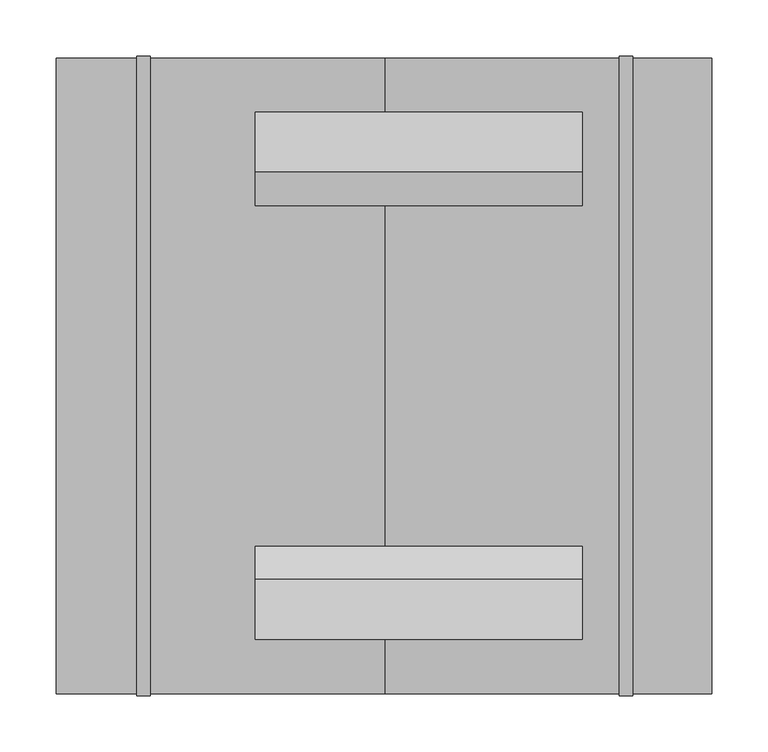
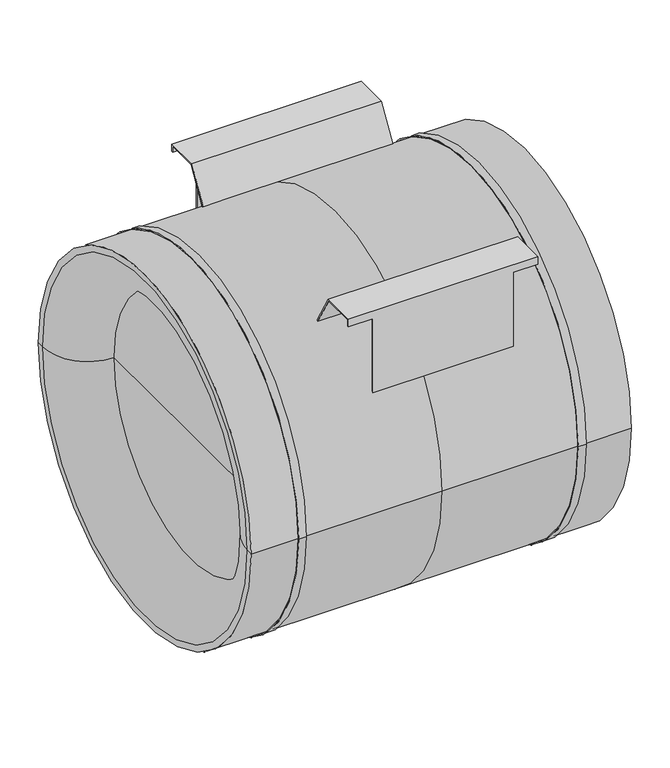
"""IFC4 building model written with IfcOpenShell, lengths in millimetres: unitary equipment geometry, VE-Wentylator-ParaForma-Harmann-JETTEC_EC-Nawiewny : 560/13600EC."""

from ifc_helpers import new_model, si_unit, point, frame, frame_2d, origin, place, context, project, spatial, polyline, circle_curve, ellipse_curve, trimmed, segment, composite_curve, outline, extrude, source, transform, mapped, element, save
from ifc_brep_helpers import plane_surface, cylinder_surface, revolved_surface, advanced_brep


def unitary_equipment_e1b1fb89(model_context):
    return source(origin(), model_context, "Body", "SolidModel", [
        extrude(outline(composite_curve([segment(polyline([(-45.5, -47.7), (-45.5, 47.7)]), True, "CONTINUOUS"), segment(trimmed(circle_curve(frame_2d((-40.5, 47.7)), 5.0), [point((-45.5, 47.7))], [point((-40.5, 52.7))], False, "CARTESIAN"), True, "CONTINUOUS"), segment(polyline([(-40.5, 52.7), (40.5, 52.7)]), True, "CONTINUOUS"), segment(trimmed(circle_curve(frame_2d((40.5, 47.7)), 5.0), [point((40.5, 52.7))], [point((45.5, 47.7))], False, "CARTESIAN"), True, "CONTINUOUS"), segment(polyline([(45.5, 47.7), (45.5, -47.7)]), True, "CONTINUOUS"), segment(trimmed(circle_curve(frame_2d((40.5, -47.7)), 5.0), [point((45.5, -47.7))], [point((40.5, -52.7))], False, "CARTESIAN"), True, "CONTINUOUS"), segment(polyline([(40.5, -52.7), (-40.5, -52.7)]), True, "CONTINUOUS"), segment(trimmed(circle_curve(frame_2d((-40.5, -47.7)), 5.0), [point((-40.5, -52.7))], [point((-45.5, -47.7))], False, "CARTESIAN"), True, "CONTINUOUS")], self_intersect=False)), frame((0.0, -55.0, 0.0), z_axis=(0.0, 1.0, 0.0), x_axis=(0.0, 0.0, 1.0)), (0.0, 0.0, 1.0), 45.0),
        advanced_brep(
        [(175.0, 234.0, 277.0), (175.0, 234.0, 289.0), (175.0, 180.8, 289.0), (175.0, 151.1693096, 238.0584799), (175.0, 152.8553733, 236.9793975), (175.0, 181.950402, 287.0), (175.0, 232.0, 287.0), (175.0, 232.0, 277.0), (137.5, 232.0, 277.0), (137.5, 234.0, 277.0), (-115.0, 232.0, 287.0), (-115.0, 232.0, 277.0), (-77.5, 232.0, 277.0), (-77.5, 232.0, 160.3121954), (137.5, 232.0, 160.3121954), (-115.0, 181.950402, 287.0), (137.5, 152.8553733, 236.9793975), (-77.5, 152.8553733, 236.9793975), (-115.0, 152.8553733, 236.9793975), (-115.0, 180.8, 289.0), (-115.0, 151.1693096, 238.0584799), (-77.5, 151.1693096, 238.0584799), (137.5, 151.1693096, 238.0584799), (-115.0, 234.0, 289.0), (137.5, 234.0, 157.3785246), (-77.5, 234.0, 157.3785246), (-77.5, 234.0, 277.0), (-115.0, 234.0, 277.0)],
        [
            (0, 1),
            (1, 2),
            (2, 3),
            (3, 4, circle_curve(frame((175.0, 0.0, 0.0), z_axis=(-1.0, 0.0, 0.0), x_axis=(0.0, 1.0, 0.0)), 282.0)),
            (4, 5),
            (5, 6),
            (6, 7),
            (7, 0),
            (7, 8),
            (8, 9),
            (9, 0),
            (6, 10),
            (10, 11),
            (11, 12),
            (12, 13),
            (13, 14),
            (14, 8),
            (5, 15),
            (15, 10),
            (4, 16),
            (16, 17),
            (17, 18),
            (18, 15),
            (19, 20),
            (20, 21),
            (21, 22),
            (22, 3),
            (2, 19),
            (1, 23),
            (23, 19),
            (9, 24),
            (24, 25),
            (25, 26),
            (26, 27),
            (27, 23),
            (20, 18, circle_curve(frame((-115.0, 0.0, 0.0), z_axis=(-1.0, 0.0, 0.0), x_axis=(0.0, 1.0, 0.0)), 282.0)),
            (17, 21, circle_curve(frame((-77.5, 0.0, 0.0), z_axis=(1.0, 0.0, 0.0), x_axis=(0.0, 1.0, 0.0)), 282.0)),
            (22, 16, circle_curve(frame((137.5, 0.0, 0.0), z_axis=(-1.0, 0.0, 0.0), x_axis=(0.0, 1.0, 0.0)), 282.0)),
            (25, 13, circle_curve(frame((-77.5, 0.0, 0.0), z_axis=(1.0, 0.0, 0.0), x_axis=(0.0, 1.0, 0.0)), 282.0)),
            (12, 26),
            (14, 24, circle_curve(frame((137.5, 0.0, 0.0), z_axis=(-1.0, 0.0, 0.0), x_axis=(0.0, 1.0, 0.0)), 282.0)),
            (27, 11),
        ],
        [
            plane_surface(frame((175.0, 0.0, 0.0), z_axis=(1.0, 0.0, 0.0), x_axis=(0.0, 0.0, 1.0))),
            plane_surface(frame((137.5, 234.0, 277.0), z_axis=(0.0, 0.0, -1.0), x_axis=(1.0, 0.0, 0.0))),
            plane_surface(frame((137.5, 232.0, 277.0), z_axis=(0.0, -1.0, 0.0), x_axis=(1.0, 0.0, 0.0))),
            plane_surface(frame((137.5, 232.0, 287.0), z_axis=(0.0, 0.0, -1.0), x_axis=(1.0, 0.0, 0.0))),
            plane_surface(frame((137.5, 181.950402, 287.0), z_axis=(0.0, 0.8644074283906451, -0.5027920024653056), x_axis=(1.0, 0.0, 0.0))),
            plane_surface(frame((137.5, 12.7, 0.0), z_axis=(0.0, -0.864407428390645, 0.5027920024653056), x_axis=(1.0, 0.0, 0.0))),
            plane_surface(frame((137.5, 180.8, 289.0), z_axis=(0.0, 0.0, 1.0), x_axis=(1.0, 0.0, 0.0))),
            plane_surface(frame((137.5, 234.0, 289.0), z_axis=(0.0, 1.0, 0.0), x_axis=(1.0, 0.0, 0.0))),
            revolved_surface(polyline([(-115.0, 282.0, 0.0), (-77.5, 282.0, 0.0)]), (-115.0, 0.0, 0.0), (-1.0, 0.0, 0.0)),
            revolved_surface(polyline([(137.5, 282.0, 0.0), (175.0, 282.0, 0.0)]), (137.5, 0.0, 0.0), (-1.0, 0.0, 0.0)),
            plane_surface(frame((-77.5, 0.0, 0.0), z_axis=(-1.0, 0.0, 0.0), x_axis=(0.0, 0.0, 1.0))),
            plane_surface(frame((137.5, 0.0, 0.0), z_axis=(1.0, 0.0, 0.0), x_axis=(0.0, 0.0, 1.0))),
            revolved_surface(polyline([(-77.5, 282.0, 0.0), (137.5, 282.0, 0.0)]), (-77.5, 0.0, 0.0), (-1.0, 0.0, 0.0)),
            plane_surface(frame((-115.0, 0.0, 0.0), z_axis=(-1.0, 0.0, 0.0), x_axis=(0.0, 0.0, 1.0))),
            plane_surface(frame((-115.0, 234.0, 277.0), z_axis=(0.0, 0.0, -1.0), x_axis=(1.0, 0.0, 0.0))),
        ],
        [
            (0, [[1, 2, 3, 4, 5, 6, 7, 8]]),
            (1, [[-8, 9, 10, 11]]),
            (2, [[-7, 12, 13, 14, 15, 16, 17, -9]]),
            (3, [[-12, -6, 18, 19]]),
            (4, [[-18, -5, 20, 21, 22, 23]]),
            (5, [[24, 25, 26, 27, -3, 28]]),
            (6, [[-28, -2, 29, 30]]),
            (7, [[-29, -1, -11, 31, 32, 33, 34, 35]]),
            (8, [[36, -22, 37, -25]]),
            (9, [[-4, -27, 38, -20]]),
            (10, [[39, -15, 40, -33]]),
            (11, [[41, -31, -10, -17]]),
            (12, [[-21, -38, -26, -37]]),
            (12, [[-39, -32, -41, -16]]),
            (13, [[42, -13, -19, -23, -36, -24, -30, -35]]),
            (14, [[-42, -34, -40, -14]]),
        ],
    ),
        advanced_brep(
        [(175.0, -180.8, 289.0), (175.0, -234.0, 289.0), (175.0, -234.0, 277.0), (175.0, -232.0, 277.0), (175.0, -232.0, 287.0), (175.0, -181.950402, 287.0), (175.0, -152.8553733, 236.9793975), (175.0, -151.1693096, 238.0584799), (-115.0, -181.950402, 287.0), (-115.0, -152.8553733, 236.9793975), (-77.5, -152.8553733, 236.9793975), (137.5, -152.8553733, 236.9793975), (-115.0, -232.0, 287.0), (137.5, -232.0, 277.0), (137.5, -232.0, 160.3121954), (-77.5, -232.0, 160.3121954), (-77.5, -232.0, 277.0), (-115.0, -232.0, 277.0), (137.5, -234.0, 277.0), (-115.0, -234.0, 289.0), (-115.0, -234.0, 277.0), (-77.5, -234.0, 277.0), (-77.5, -234.0, 157.3785246), (137.5, -234.0, 157.3785246), (-115.0, -180.8, 289.0), (137.5, -151.1693096, 238.0584799), (-77.5, -151.1693096, 238.0584799), (-115.0, -151.1693096, 238.0584799)],
        [
            (0, 1),
            (1, 2),
            (2, 3),
            (3, 4),
            (4, 5),
            (5, 6),
            (6, 7, circle_curve(frame((175.0, 0.0, 0.0), z_axis=(-1.0, 0.0, 0.0), x_axis=(0.0, 1.0, 0.0)), 282.0)),
            (7, 0),
            (8, 9),
            (9, 10),
            (10, 11),
            (11, 6),
            (5, 8),
            (4, 12),
            (12, 8),
            (3, 13),
            (13, 14),
            (14, 15),
            (15, 16),
            (16, 17),
            (17, 12),
            (2, 18),
            (18, 13),
            (1, 19),
            (19, 20),
            (20, 21),
            (21, 22),
            (22, 23),
            (23, 18),
            (0, 24),
            (24, 19),
            (7, 25),
            (25, 26),
            (26, 27),
            (27, 24),
            (9, 27, circle_curve(frame((-115.0, 0.0, 0.0), z_axis=(-1.0, 0.0, 0.0), x_axis=(0.0, 1.0, 0.0)), 282.0)),
            (26, 10, circle_curve(frame((-77.5, 0.0, 0.0), z_axis=(1.0, 0.0, 0.0), x_axis=(0.0, 1.0, 0.0)), 282.0)),
            (11, 25, circle_curve(frame((137.5, 0.0, 0.0), z_axis=(-1.0, 0.0, 0.0), x_axis=(0.0, 1.0, 0.0)), 282.0)),
            (15, 22, circle_curve(frame((-77.5, 0.0, 0.0), z_axis=(1.0, 0.0, 0.0), x_axis=(0.0, 1.0, 0.0)), 282.0)),
            (21, 16),
            (23, 14, circle_curve(frame((137.5, 0.0, 0.0), z_axis=(-1.0, 0.0, 0.0), x_axis=(0.0, 1.0, 0.0)), 282.0)),
            (17, 20),
        ],
        [
            plane_surface(frame((175.0, 0.0, 0.0), z_axis=(1.0, 0.0, 0.0), x_axis=(0.0, 0.0, 1.0))),
            plane_surface(frame((137.5, -13.850402, -2.0), z_axis=(0.0, -0.8644074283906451, -0.5027920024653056), x_axis=(1.0, 0.0, 0.0))),
            plane_surface(frame((137.5, -181.950402, 287.0), z_axis=(0.0, 0.0, -1.0), x_axis=(1.0, 0.0, 0.0))),
            plane_surface(frame((137.5, -232.0, 287.0), z_axis=(0.0, 1.0, 0.0), x_axis=(1.0, 0.0, 0.0))),
            plane_surface(frame((137.5, -232.0, 277.0), z_axis=(0.0, 0.0, -1.0), x_axis=(1.0, 0.0, 0.0))),
            plane_surface(frame((137.5, -234.0, 277.0), z_axis=(0.0, -1.0, 0.0), x_axis=(1.0, 0.0, 0.0))),
            plane_surface(frame((137.5, -234.0, 289.0), z_axis=(0.0, 0.0, 1.0), x_axis=(1.0, 0.0, 0.0))),
            plane_surface(frame((137.5, -180.8, 289.0), z_axis=(0.0, 0.864407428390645, 0.5027920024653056), x_axis=(1.0, 0.0, 0.0))),
            revolved_surface(polyline([(-115.0, 282.0, 0.0), (-77.5, 282.0, 0.0)]), (-115.0, 0.0, 0.0), (-1.0, 0.0, 0.0)),
            revolved_surface(polyline([(137.5, 282.0, 0.0), (175.0, 282.0, 0.0)]), (137.5, 0.0, 0.0), (-1.0, 0.0, 0.0)),
            plane_surface(frame((-77.5, 0.0, 0.0), z_axis=(-1.0, 0.0, 0.0), x_axis=(0.0, 0.0, 1.0))),
            plane_surface(frame((137.5, 0.0, 0.0), z_axis=(1.0, 0.0, 0.0), x_axis=(0.0, 0.0, 1.0))),
            revolved_surface(polyline([(-77.5, 282.0, 0.0), (137.5, 282.0, 0.0)]), (-77.5, 0.0, 0.0), (-1.0, 0.0, 0.0)),
            plane_surface(frame((-115.0, 0.0, 0.0), z_axis=(-1.0, 0.0, 0.0), x_axis=(0.0, 0.0, 1.0))),
            plane_surface(frame((-115.0, -232.0, 277.0), z_axis=(0.0, 0.0, -1.0), x_axis=(1.0, 0.0, 0.0))),
        ],
        [
            (0, [[1, 2, 3, 4, 5, 6, 7, 8]]),
            (1, [[9, 10, 11, 12, -6, 13]]),
            (2, [[-13, -5, 14, 15]]),
            (3, [[-14, -4, 16, 17, 18, 19, 20, 21]]),
            (4, [[-3, 22, 23, -16]]),
            (5, [[-2, 24, 25, 26, 27, 28, 29, -22]]),
            (6, [[-24, -1, 30, 31]]),
            (7, [[-30, -8, 32, 33, 34, 35]]),
            (8, [[36, -34, 37, -10]]),
            (9, [[-7, -12, 38, -32]]),
            (10, [[39, -27, 40, -19]]),
            (11, [[41, -17, -23, -29]]),
            (12, [[-11, -37, -33, -38]]),
            (12, [[-39, -18, -41, -28]]),
            (13, [[-15, -21, 42, -25, -31, -35, -36, -9]]),
            (14, [[-42, -20, -40, -26]]),
        ],
    ),
        advanced_brep(
        [(-208.0, 282.0, 0.0), (0.0, 282.0, 0.0), (0.0, -282.0, 0.0), (-208.0, -282.0, 0.0), (-291.5, -282.0, 0.0), (-291.5, 282.0, 0.0), (-220.0, 282.0, 0.0), (-220.0, -282.0, 0.0), (-291.5, -272.0, 0.0), (-291.5, 272.0, 0.0), (-222.0, -202.5, 0.0), (-222.0, 202.5, 0.0), (-222.0, 0.0, 0.0), (290.0, -282.0, 0.0), (290.0, 282.0, 0.0), (290.0, 0.0, 0.0), (220.0, -282.0, 0.0), (220.0, 282.0, 0.0), (208.0, 282.0, 0.0), (208.0, -282.0, 0.0), (-208.0, -283.8, 0.0), (-208.0, 283.8, 0.0), (-220.0, -283.8, 0.0), (-220.0, 283.8, 0.0), (220.0, -283.8, 0.0), (220.0, 283.8, 0.0), (208.0, -283.8, 0.0), (208.0, 283.8, 0.0)],
        [
            (0, 1),
            (1, 2, circle_curve(frame((0.0, 0.0, 0.0), z_axis=(-1.0, 0.0, 0.0), x_axis=(0.0, 1.0, 0.0)), 282.0)),
            (2, 3),
            (3, 0, circle_curve(frame((-208.0, 0.0, 0.0), z_axis=(1.0, 0.0, 0.0), x_axis=(0.0, 1.0, 0.0)), 282.0)),
            (0, 3, circle_curve(frame((-208.0, 0.0, 0.0), z_axis=(1.0, 0.0, 0.0), x_axis=(0.0, 1.0, 0.0)), 282.0)),
            (2, 1, circle_curve(frame((0.0, 0.0, 0.0), z_axis=(-1.0, 0.0, 0.0), x_axis=(0.0, 1.0, 0.0)), 282.0)),
            (4, 5, circle_curve(frame((-291.5, 0.0, 0.0), z_axis=(1.0, 0.0, 0.0), x_axis=(0.0, 1.0, 0.0)), 282.0)),
            (5, 6),
            (6, 7, circle_curve(frame((-220.0, 0.0, 0.0), z_axis=(-1.0, 0.0, 0.0), x_axis=(0.0, 1.0, 0.0)), 282.0)),
            (7, 4),
            (5, 4, circle_curve(frame((-291.5, 0.0, 0.0), z_axis=(1.0, 0.0, 0.0), x_axis=(0.0, 1.0, 0.0)), 282.0)),
            (7, 6, circle_curve(frame((-220.0, 0.0, 0.0), z_axis=(-1.0, 0.0, 0.0), x_axis=(0.0, 1.0, 0.0)), 282.0)),
            (4, 8),
            (8, 9, circle_curve(frame((-291.5, 0.0, 0.0), z_axis=(1.0, 0.0, 0.0), x_axis=(0.0, 1.0, 0.0)), 272.0)),
            (9, 5),
            (9, 8, circle_curve(frame((-291.5, 0.0, 0.0), z_axis=(1.0, 0.0, 0.0), x_axis=(0.0, 1.0, 0.0)), 272.0)),
            (8, 10, circle_curve(frame((-222.0, -272.0, 0.0), z_axis=(0.0, 0.0, -1.0), x_axis=(1.0, 0.0, 0.0)), 69.5)),
            (10, 11, circle_curve(frame((-222.0, 0.0, 0.0), z_axis=(1.0, 0.0, 0.0), x_axis=(0.0, 1.0, 0.0)), 202.5)),
            (11, 9, circle_curve(frame((-222.0, 272.0, 0.0), z_axis=(0.0, 0.0, -1.0), x_axis=(1.0, 0.0, 0.0)), 69.5)),
            (11, 10, circle_curve(frame((-222.0, 0.0, 0.0), z_axis=(1.0, 0.0, 0.0), x_axis=(0.0, 1.0, 0.0)), 202.5)),
            (10, 12),
            (12, 11),
            (13, 14, circle_curve(frame((290.0, 0.0, 0.0), z_axis=(1.0, 0.0, 0.0), x_axis=(0.0, 1.0, 0.0)), 282.0)),
            (14, 15),
            (15, 13),
            (14, 13, circle_curve(frame((290.0, 0.0, 0.0), z_axis=(1.0, 0.0, 0.0), x_axis=(0.0, 1.0, 0.0)), 282.0)),
            (13, 16),
            (16, 17, circle_curve(frame((220.0, 0.0, 0.0), z_axis=(1.0, 0.0, 0.0), x_axis=(0.0, 1.0, 0.0)), 282.0)),
            (17, 14),
            (17, 16, circle_curve(frame((220.0, 0.0, 0.0), z_axis=(1.0, 0.0, 0.0), x_axis=(0.0, 1.0, 0.0)), 282.0)),
            (1, 18),
            (18, 19, circle_curve(frame((208.0, 0.0, 0.0), z_axis=(-1.0, 0.0, 0.0), x_axis=(0.0, 1.0, 0.0)), 282.0)),
            (19, 2),
            (19, 18, circle_curve(frame((208.0, 0.0, 0.0), z_axis=(-1.0, 0.0, 0.0), x_axis=(0.0, 1.0, 0.0)), 282.0)),
            (20, 21, circle_curve(frame((-208.0, 0.0, 0.0), z_axis=(1.0, 0.0, 0.0), x_axis=(0.0, 1.0, 0.0)), 283.8)),
            (21, 0),
            (3, 20),
            (21, 20, circle_curve(frame((-208.0, 0.0, 0.0), z_axis=(1.0, 0.0, 0.0), x_axis=(0.0, 1.0, 0.0)), 283.8)),
            (20, 22),
            (22, 23, circle_curve(frame((-220.0, 0.0, 0.0), z_axis=(1.0, 0.0, 0.0), x_axis=(0.0, 1.0, 0.0)), 283.8)),
            (23, 21),
            (23, 22, circle_curve(frame((-220.0, 0.0, 0.0), z_axis=(1.0, 0.0, 0.0), x_axis=(0.0, 1.0, 0.0)), 283.8)),
            (22, 7),
            (6, 23),
            (24, 25, circle_curve(frame((220.0, 0.0, 0.0), z_axis=(1.0, 0.0, 0.0), x_axis=(0.0, 1.0, 0.0)), 283.8)),
            (25, 17),
            (16, 24),
            (25, 24, circle_curve(frame((220.0, 0.0, 0.0), z_axis=(1.0, 0.0, 0.0), x_axis=(0.0, 1.0, 0.0)), 283.8)),
            (24, 26),
            (26, 27, circle_curve(frame((208.0, 0.0, 0.0), z_axis=(1.0, 0.0, 0.0), x_axis=(0.0, 1.0, 0.0)), 283.8)),
            (27, 25),
            (27, 26, circle_curve(frame((208.0, 0.0, 0.0), z_axis=(1.0, 0.0, 0.0), x_axis=(0.0, 1.0, 0.0)), 283.8)),
            (26, 19),
            (18, 27),
        ],
        [
            cylinder_surface(frame((-222.0, 0.0, 0.0), z_axis=(-1.0, 0.0, 0.0), x_axis=(0.0, 1.0, 0.0)), 282.0),
            plane_surface(frame((-291.5, 0.0, 0.0), z_axis=(-1.0, 0.0, 0.0), x_axis=(0.0, 1.0, 0.0))),
            revolved_surface(trimmed(ellipse_curve(frame((-222.0, 272.0, 0.0), z_axis=(0.0, 0.0, 1.0), x_axis=(1.0, 0.0, 0.0)), 69.5, 69.5), [point((-291.5, 272.0, 0.0))], [point((-222.0, 202.5, 0.0))], True, "CARTESIAN"), (-222.0, 0.0, 0.0), (-1.0, 0.0, 0.0)),
            plane_surface(frame((-222.0, 0.0, 0.0), z_axis=(-1.0, 0.0, 0.0), x_axis=(0.0, 1.0, 0.0))),
            plane_surface(frame((290.0, 0.0, 0.0), z_axis=(1.0, 0.0, 0.0), x_axis=(0.0, 1.0, 0.0))),
            cylinder_surface(frame((0.0, 0.0, 0.0), z_axis=(-1.0, 0.0, 0.0), x_axis=(0.0, 1.0, 0.0)), 282.0),
            plane_surface(frame((-208.0, 0.0, 0.0), z_axis=(1.0, 0.0, 0.0), x_axis=(0.0, 1.0, 0.0))),
            cylinder_surface(frame((-220.0, 0.0, 0.0), z_axis=(-1.0, 0.0, 0.0), x_axis=(0.0, 1.0, 0.0)), 283.8),
            plane_surface(frame((-220.0, 0.0, 0.0), z_axis=(-1.0, 0.0, 0.0), x_axis=(0.0, 1.0, 0.0))),
            plane_surface(frame((220.0, 0.0, 0.0), z_axis=(1.0, 0.0, 0.0), x_axis=(0.0, 1.0, 0.0))),
            plane_surface(frame((208.0, 0.0, 0.0), z_axis=(-1.0, 0.0, 0.0), x_axis=(0.0, 1.0, 0.0))),
        ],
        [
            (0, [[1, 2, 3, 4]]),
            (0, [[-1, 5, -3, 6]]),
            (0, [[7, 8, 9, 10]]),
            (0, [[-8, 11, -10, 12]]),
            (1, [[-7, 13, 14, 15]]),
            (1, [[-11, -15, 16, -13]]),
            (2, [[-14, 17, 18, 19]]),
            (2, [[-16, -19, 20, -17]]),
            (3, [[-18, 21, 22]]),
            (3, [[-20, -22, -21]]),
            (4, [[23, 24, 25]]),
            (4, [[-24, 26, -25]]),
            (5, [[-23, 27, 28, 29]]),
            (5, [[-26, -29, 30, -27]]),
            (5, [[31, 32, 33, -2]]),
            (5, [[-31, -6, -33, 34]]),
            (6, [[35, 36, -4, 37]]),
            (6, [[38, -37, -5, -36]]),
            (7, [[-35, 39, 40, 41]]),
            (7, [[-38, -41, 42, -39]]),
            (8, [[-40, 43, -9, 44]]),
            (8, [[-42, -44, -12, -43]]),
            (9, [[45, 46, -28, 47]]),
            (9, [[48, -47, -30, -46]]),
            (7, [[-45, 49, 50, 51]]),
            (7, [[-48, -51, 52, -49]]),
            (10, [[-50, 53, -32, 54]]),
            (10, [[-52, -54, -34, -53]]),
        ],
    ),
    ])


if __name__ == "__main__":
    model = new_model("IFC4")
    model_context = context("Model", 3, world=origin())
    ifc_project = project(units=[si_unit("LENGTHUNIT", "METRE", prefix="MILLI")], contexts=[model_context])
    site = spatial("IfcSite", under=ifc_project)
    building = spatial("IfcBuilding", under=site)
    placement = place(None, origin())
    unitary_equipment_shape = unitary_equipment_e1b1fb89(model_context)
    element("IfcUnitaryEquipment", 1, ObjectType="VE-Wentylator-ParaForma-Harmann-JETTEC_EC-Nawiewny : 560/13600EC", at=placement, inside=building, context=model_context, shape_type="MappedRepresentation", body=[
        mapped(unitary_equipment_shape, transform((0.0, 0.0, 0.0), x_axis=(1.0, 0.0, 0.0), y_axis=(0.0, 1.0, 0.0), z_axis=(0.0, 0.0, 1.0))),
    ])
    save(model, "model.ifc")
